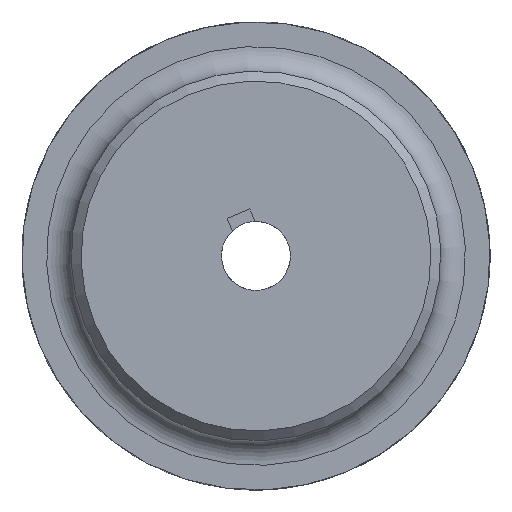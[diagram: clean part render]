
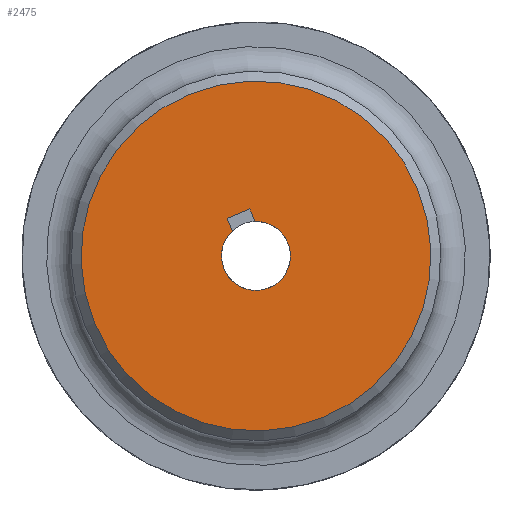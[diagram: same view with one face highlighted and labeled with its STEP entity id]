
A CAD part, left-side view. The second image highlights one B-rep face of the part: STEP entity #2475.
In plain terms, the highlighted planar face has unit normal (-1, 0, 0) as drawn and (0, 0, -1) by its records, which use the part's own axes.
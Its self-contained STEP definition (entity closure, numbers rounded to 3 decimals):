
#140=LINE('',#5451,#243);
#143=LINE('',#5457,#246);
#146=LINE('',#5463,#249);
#243=VECTOR('',#3223,10.);
#246=VECTOR('',#3228,10.);
#249=VECTOR('',#3233,10.);
#356=FACE_BOUND('',#650,.T.);
#493=FACE_OUTER_BOUND('',#649,.T.);
#649=EDGE_LOOP('',(#2290));
#650=EDGE_LOOP('',(#2291,#2292,#2293,#2294));
#857=CIRCLE('',#2728,7.);
#919=CIRCLE('',#2828,35.5);
#1088=VERTEX_POINT('',#5448);
#1089=VERTEX_POINT('',#5450);
#1091=VERTEX_POINT('',#5456);
#1093=VERTEX_POINT('',#5462);
#1169=VERTEX_POINT('',#5823);
#1421=EDGE_CURVE('',#1089,#1088,#140,.T.);
#1424=EDGE_CURVE('',#1091,#1089,#143,.T.);
#1427=EDGE_CURVE('',#1093,#1091,#146,.T.);
#1436=EDGE_CURVE('',#1088,#1093,#857,.T.);
#1544=EDGE_CURVE('',#1169,#1169,#919,.T.);
#2290=ORIENTED_EDGE('',*,*,#1544,.T.);
#2291=ORIENTED_EDGE('',*,*,#1427,.T.);
#2292=ORIENTED_EDGE('',*,*,#1424,.T.);
#2293=ORIENTED_EDGE('',*,*,#1421,.T.);
#2294=ORIENTED_EDGE('',*,*,#1436,.T.);
#2338=PLANE('',#2829);
#2475=ADVANCED_FACE('',(#493,#356),#2338,.T.);
#2728=AXIS2_PLACEMENT_3D('',#5488,#3245,#3246);
#2828=AXIS2_PLACEMENT_3D('',#5825,#3480,#3481);
#2829=AXIS2_PLACEMENT_3D('',#5826,#3482,#3483);
#3223=DIRECTION('',(1.,0.,0.));
#3228=DIRECTION('',(0.,-1.,0.));
#3233=DIRECTION('',(-1.,0.,0.));
#3245=DIRECTION('center_axis',(0.,0.,
1.));
#3246=DIRECTION('ref_axis',(1.,0.,0.));
#3480=DIRECTION('center_axis',(0.,0.,
-1.));
#3481=DIRECTION('ref_axis',(0.,1.,0.));
#3482=DIRECTION('center_axis',(0.,0.,
-1.));
#3483=DIRECTION('ref_axis',(0.,-1.,0.));
#5448=CARTESIAN_POINT('',(-6.538,-2.5,-50.));
#5450=CARTESIAN_POINT('',(-9.3,-2.5,-50.));
#5451=CARTESIAN_POINT('',(-4.65,-2.5,-50.));
#5456=CARTESIAN_POINT('',(-9.3,2.5,-50.));
#5457=CARTESIAN_POINT('',(-9.3,1.25,-50.));
#5462=CARTESIAN_POINT('',(-6.538,2.5,-50.));
#5463=CARTESIAN_POINT('',(-3.269,2.5,-50.));
#5488=CARTESIAN_POINT('Origin',(0.,0.,
-50.));
#5823=CARTESIAN_POINT('',(0.,-35.5,-50.));
#5825=CARTESIAN_POINT('Origin',(0.,0.,
-50.));
#5826=CARTESIAN_POINT('Origin',(0.,0.,
-50.));
